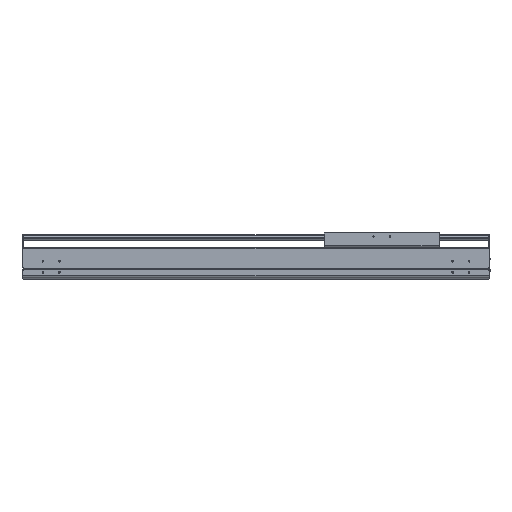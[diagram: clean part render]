
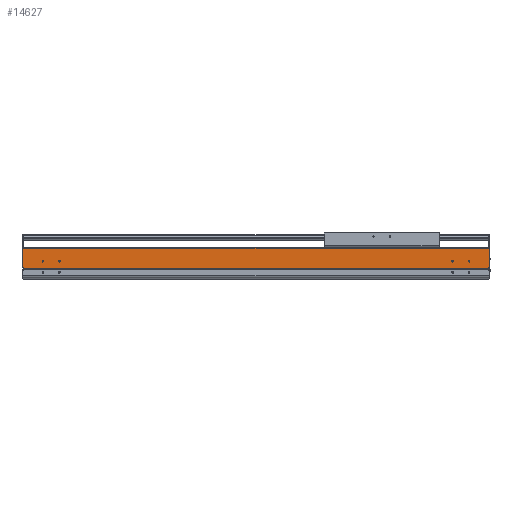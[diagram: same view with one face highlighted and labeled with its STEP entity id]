
A CAD part, top view. The second image highlights one B-rep face of the part: STEP entity #14627.
In plain terms, the highlighted planar face has unit normal (0, 0, 1).
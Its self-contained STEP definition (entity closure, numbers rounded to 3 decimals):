
#1832=DIRECTION('',(0.,-1.,0.));
#1833=VECTOR('',#1832,2.55);
#1834=CARTESIAN_POINT('',(0.,34.65,107.));
#1835=LINE('',#1834,#1833);
#2315=DIRECTION('',(1.,0.,0.));
#2316=VECTOR('',#2315,2.);
#2317=CARTESIAN_POINT('',(-1421.,34.65,107.));
#2318=LINE('',#2317,#2316);
#2319=CARTESIAN_POINT('',(-59.5,54.,107.));
#2320=DIRECTION('',(0.,0.,-1.));
#2321=DIRECTION('',(1.,0.,0.));
#2322=AXIS2_PLACEMENT_3D('',#2319,#2320,#2321);
#2324=CARTESIAN_POINT('',(-59.5,54.,107.));
#2325=DIRECTION('',(0.,0.,-1.));
#2326=DIRECTION('',(-1.,0.,0.));
#2327=AXIS2_PLACEMENT_3D('',#2324,#2325,#2326);
#2329=CARTESIAN_POINT('',(-109.5,54.,107.));
#2330=DIRECTION('',(0.,0.,-1.));
#2331=DIRECTION('',(1.,0.,0.));
#2332=AXIS2_PLACEMENT_3D('',#2329,#2330,#2331);
#2334=CARTESIAN_POINT('',(-109.5,54.,107.));
#2335=DIRECTION('',(0.,0.,-1.));
#2336=DIRECTION('',(-1.,0.,0.));
#2337=AXIS2_PLACEMENT_3D('',#2334,#2335,#2336);
#2339=CARTESIAN_POINT('',(-1359.5,54.,107.));
#2340=DIRECTION('',(0.,0.,-1.));
#2341=DIRECTION('',(1.,0.,0.));
#2342=AXIS2_PLACEMENT_3D('',#2339,#2340,#2341);
#2344=CARTESIAN_POINT('',(-1359.5,54.,107.));
#2345=DIRECTION('',(0.,0.,-1.));
#2346=DIRECTION('',(-1.,0.,0.));
#2347=AXIS2_PLACEMENT_3D('',#2344,#2345,#2346);
#2349=CARTESIAN_POINT('',(-1309.5,54.,107.));
#2350=DIRECTION('',(0.,0.,-1.));
#2351=DIRECTION('',(1.,0.,0.));
#2352=AXIS2_PLACEMENT_3D('',#2349,#2350,#2351);
#2354=CARTESIAN_POINT('',(-1309.5,54.,107.));
#2355=DIRECTION('',(0.,0.,-1.));
#2356=DIRECTION('',(-1.,0.,0.));
#2357=AXIS2_PLACEMENT_3D('',#2354,#2355,#2356);
#2359=DIRECTION('',(0.,-1.,0.));
#2360=VECTOR('',#2359,2.55);
#2361=CARTESIAN_POINT('',(-1419.,34.65,107.));
#2362=LINE('',#2361,#2360);
#2363=DIRECTION('',(0.,-1.,0.));
#2364=VECTOR('',#2363,58.85);
#2365=CARTESIAN_POINT('',(-1421.,93.5,107.));
#2366=LINE('',#2365,#2364);
#2367=DIRECTION('',(0.,1.,0.));
#2368=VECTOR('',#2367,58.85);
#2369=CARTESIAN_POINT('',(2.,34.65,107.));
#2370=LINE('',#2369,#2368);
#2371=DIRECTION('',(1.,0.,0.));
#2372=VECTOR('',#2371,1419.);
#2373=CARTESIAN_POINT('',(-1419.,32.1,107.));
#2374=LINE('',#2373,#2372);
#2479=DIRECTION('',(-1.,0.,0.));
#2480=VECTOR('',#2479,1423.);
#2481=CARTESIAN_POINT('',(2.,93.5,107.));
#2482=LINE('',#2481,#2480);
#7919=DIRECTION('',(1.,0.,0.));
#7920=VECTOR('',#7919,2.);
#7921=CARTESIAN_POINT('',(0.,34.65,107.));
#7922=LINE('',#7921,#7920);
#9081=CARTESIAN_POINT('',(-1421.,34.65,107.));
#9082=VERTEX_POINT('',#9081);
#9083=CARTESIAN_POINT('',(-1421.,93.5,107.));
#9084=VERTEX_POINT('',#9083);
#9313=CARTESIAN_POINT('',(-1419.,32.1,107.));
#9314=VERTEX_POINT('',#9313);
#9613=CARTESIAN_POINT('',(0.,32.1,107.));
#9614=VERTEX_POINT('',#9613);
#9615=CARTESIAN_POINT('',(-57.,54.,107.));
#9616=CARTESIAN_POINT('',(-62.,54.,107.));
#9617=VERTEX_POINT('',#9615);
#9618=VERTEX_POINT('',#9616);
#9619=CARTESIAN_POINT('',(-107.,54.,107.));
#9620=CARTESIAN_POINT('',(-112.,54.,107.));
#9621=VERTEX_POINT('',#9619);
#9622=VERTEX_POINT('',#9620);
#9623=CARTESIAN_POINT('',(-1357.,54.,107.));
#9624=CARTESIAN_POINT('',(-1362.,54.,107.));
#9625=VERTEX_POINT('',#9623);
#9626=VERTEX_POINT('',#9624);
#9627=CARTESIAN_POINT('',(-1307.,54.,107.));
#9628=CARTESIAN_POINT('',(-1312.,54.,107.));
#9629=VERTEX_POINT('',#9627);
#9630=VERTEX_POINT('',#9628);
#10466=CARTESIAN_POINT('',(2.,34.65,107.));
#10467=VERTEX_POINT('',#10466);
#10468=CARTESIAN_POINT('',(2.,93.5,107.));
#10469=VERTEX_POINT('',#10468);
#10920=CARTESIAN_POINT('',(0.,34.65,107.));
#10921=VERTEX_POINT('',#10920);
#11000=CARTESIAN_POINT('',(-1419.,34.65,107.));
#11001=VERTEX_POINT('',#11000);
#14585=CARTESIAN_POINT('',(-709.5,62.8,107.));
#14586=DIRECTION('',(0.,0.,1.));
#14587=DIRECTION('',(0.,-1.,0.));
#14588=AXIS2_PLACEMENT_3D('',#14585,#14586,#14587);
#14589=PLANE('',#14588);
#14590=ORIENTED_EDGE('',*,*,#12071,.F.);
#14591=ORIENTED_EDGE('',*,*,#14580,.F.);
#14592=ORIENTED_EDGE('',*,*,#12700,.F.);
#14594=ORIENTED_EDGE('',*,*,#14593,.F.);
#14595=ORIENTED_EDGE('',*,*,#11808,.F.);
#14597=ORIENTED_EDGE('',*,*,#14596,.F.);
#14598=ORIENTED_EDGE('',*,*,#14188,.T.);
#14600=ORIENTED_EDGE('',*,*,#14599,.F.);
#14601=EDGE_LOOP('',(#14590,#14591,#14592,#14594,#14595,#14597,#14598,#14600));
#14602=FACE_OUTER_BOUND('',#14601,.F.);
#14604=ORIENTED_EDGE('',*,*,#14603,.F.);
#14606=ORIENTED_EDGE('',*,*,#14605,.F.);
#14607=EDGE_LOOP('',(#14604,#14606));
#14608=FACE_BOUND('',#14607,.F.);
#14610=ORIENTED_EDGE('',*,*,#14609,.F.);
#14612=ORIENTED_EDGE('',*,*,#14611,.F.);
#14613=EDGE_LOOP('',(#14610,#14612));
#14614=FACE_BOUND('',#14613,.F.);
#14616=ORIENTED_EDGE('',*,*,#14615,.F.);
#14618=ORIENTED_EDGE('',*,*,#14617,.F.);
#14619=EDGE_LOOP('',(#14616,#14618));
#14620=FACE_BOUND('',#14619,.F.);
#14622=ORIENTED_EDGE('',*,*,#14621,.F.);
#14624=ORIENTED_EDGE('',*,*,#14623,.F.);
#14625=EDGE_LOOP('',(#14622,#14624));
#14626=FACE_BOUND('',#14625,.F.);
#14627=ADVANCED_FACE('',(#14602,#14608,#14614,#14620,#14626),#14589,.T.);
#2323=CIRCLE('',#2322,2.5);
#2328=CIRCLE('',#2327,2.5);
#2333=CIRCLE('',#2332,2.5);
#2338=CIRCLE('',#2337,2.5);
#2343=CIRCLE('',#2342,2.5);
#2348=CIRCLE('',#2347,2.5);
#2353=CIRCLE('',#2352,2.5);
#2358=CIRCLE('',#2357,2.5);
#11808=EDGE_CURVE('',#10467,#10469,#2370,.T.);
#12071=EDGE_CURVE('',#11001,#9314,#2362,.T.);
#12700=EDGE_CURVE('',#9084,#9082,#2366,.T.);
#14188=EDGE_CURVE('',#10921,#9614,#1835,.T.);
#14580=EDGE_CURVE('',#9082,#11001,#2318,.T.);
#14593=EDGE_CURVE('',#10469,#9084,#2482,.T.);
#14596=EDGE_CURVE('',#10921,#10467,#7922,.T.);
#14599=EDGE_CURVE('',#9314,#9614,#2374,.T.);
#14603=EDGE_CURVE('',#9621,#9622,#2333,.T.);
#14605=EDGE_CURVE('',#9622,#9621,#2338,.T.);
#14609=EDGE_CURVE('',#9625,#9626,#2343,.T.);
#14611=EDGE_CURVE('',#9626,#9625,#2348,.T.);
#14615=EDGE_CURVE('',#9629,#9630,#2353,.T.);
#14617=EDGE_CURVE('',#9630,#9629,#2358,.T.);
#14621=EDGE_CURVE('',#9617,#9618,#2323,.T.);
#14623=EDGE_CURVE('',#9618,#9617,#2328,.T.);
